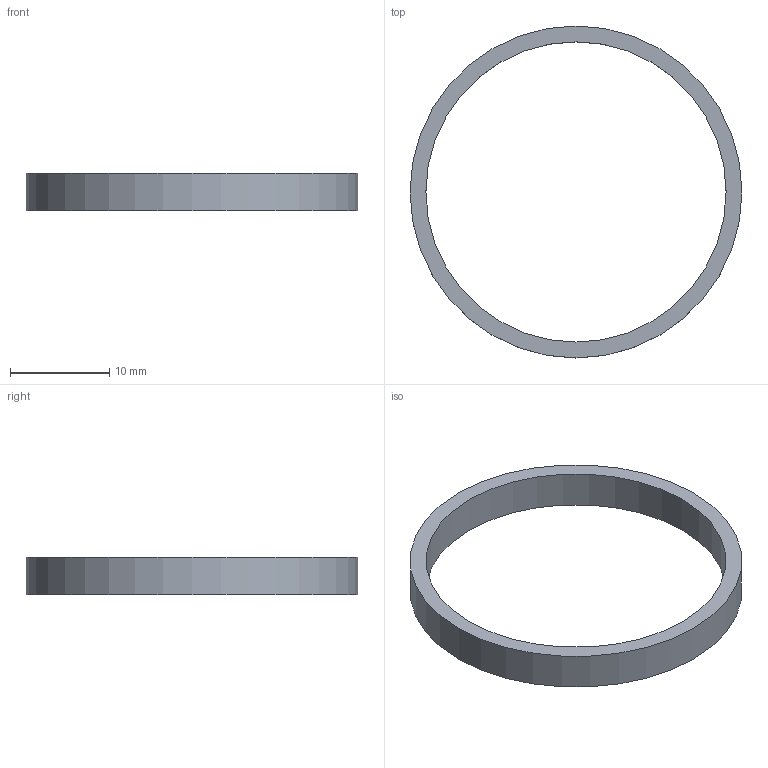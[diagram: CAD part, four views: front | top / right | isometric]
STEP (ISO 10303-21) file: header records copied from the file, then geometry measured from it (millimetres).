
FILE_DESCRIPTION(('FreeCAD Model'),'2;1');
FILE_NAME('Open CASCADE Shape Model','2026-10-30T15:57:35',('FreeCAD'),( 'FreeCAD'),'Open CASCADE STEP processor 7.8','FreeCAD','Unknown');
FILE_SCHEMA(('AUTOMOTIVE_DESIGN { 1 0 10303 214 1 1 1 1 }'));
Length unit declared in the file: millimetre
Products named in the file (1): Open CASCADE STEP translator 7.8 12
Bounding box: 33.5 x 33.5 x 3.8 mm (x, y, z)
Volume: 609.3 mm3; surface area: 1082.3 mm2
Topology: 1 solids, 1 shells, 4 faces, 6 edges, 4 vertices
Faces by surface type: cylinder 2, plane 2
Full cylindrical faces by diameter (mm): 30.3 x1, 33.5 x1
Entity records: 108 total; most frequent: DIRECTION 20, CARTESIAN_POINT 15, ORIENTED_EDGE 12, AXIS2_PLACEMENT_3D 9, FACE_BOUND 6, EDGE_LOOP 6, EDGE_CURVE 6, ADVANCED_FACE 4
